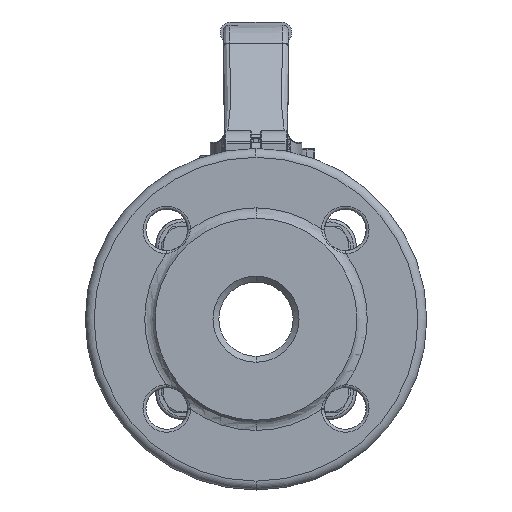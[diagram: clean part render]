
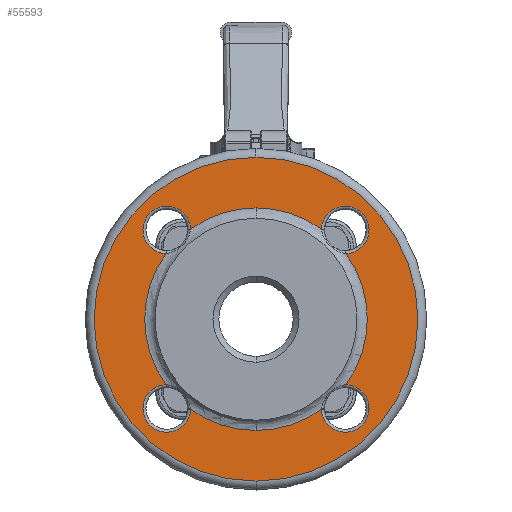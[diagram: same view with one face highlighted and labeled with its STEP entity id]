
A CAD part, left-side view. The second image highlights one B-rep face of the part: STEP entity #55593.
In plain terms, the highlighted planar face has unit normal (-1, 0, 0).
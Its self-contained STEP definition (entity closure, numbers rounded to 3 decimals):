
#57=CARTESIAN_POINT('',(-42.95,0.,0.));
#58=DIRECTION('',(1.,0.,0.));
#59=DIRECTION('',(0.,0.808,-0.589));
#60=AXIS2_PLACEMENT_3D('',#57,#58,#59);
#62=CARTESIAN_POINT('',(-42.95,0.,0.));
#63=DIRECTION('',(1.,0.,0.));
#64=DIRECTION('',(0.,0.,-1.));
#65=AXIS2_PLACEMENT_3D('',#62,#63,#64);
#67=CARTESIAN_POINT('',(-42.95,0.,0.));
#68=DIRECTION('',(-1.,0.,0.));
#69=DIRECTION('',(0.,0.,-1.));
#70=AXIS2_PLACEMENT_3D('',#67,#68,#69);
#72=CARTESIAN_POINT('',(-42.95,0.,0.));
#73=DIRECTION('',(-1.,0.,0.));
#74=DIRECTION('',(0.,-0.808,-0.589));
#75=AXIS2_PLACEMENT_3D('',#72,#73,#74);
#77=CARTESIAN_POINT('',(-42.95,0.,0.));
#78=DIRECTION('',(-1.,0.,0.));
#79=DIRECTION('',(0.,-0.589,0.808));
#80=AXIS2_PLACEMENT_3D('',#77,#78,#79);
#82=CARTESIAN_POINT('',(-42.95,0.,0.));
#83=DIRECTION('',(1.,0.,0.));
#84=DIRECTION('',(0.,0.589,0.808));
#85=AXIS2_PLACEMENT_3D('',#82,#83,#84);
#92=CARTESIAN_POINT('',(-42.95,0.,0.));
#93=DIRECTION('',(1.,0.,0.));
#94=DIRECTION('',(0.,0.,-1.));
#95=AXIS2_PLACEMENT_3D('',#92,#93,#94);
#115=CARTESIAN_POINT('',(-42.95,0.,0.));
#116=DIRECTION('',(1.,0.,0.));
#117=DIRECTION('',(0.,0.,1.));
#118=AXIS2_PLACEMENT_3D('',#115,#116,#117);
#45469=CARTESIAN_POINT('',(-42.95,30.052,30.052));
#45470=DIRECTION('',(1.,0.,0.));
#45471=DIRECTION('',(0.,0.029,-1.));
#45472=AXIS2_PLACEMENT_3D('',#45469,#45470,#45471);
#45489=CARTESIAN_POINT('',(-42.95,22.055,
30.284));
#45542=CARTESIAN_POINT('',(-42.95,30.284,
22.055));
#45624=CARTESIAN_POINT('',(-42.95,-30.052,30.052));
#45625=DIRECTION('',(1.,0.,0.));
#45626=DIRECTION('',(0.,1.,0.029));
#45627=AXIS2_PLACEMENT_3D('',#45624,#45625,#45626);
#45644=CARTESIAN_POINT('',(-42.95,-30.284,
22.055));
#45727=CARTESIAN_POINT('',(-42.95,-22.055,
30.284));
#45813=CARTESIAN_POINT('',(-42.95,-30.284,
-22.055));
#45872=CARTESIAN_POINT('',(-42.95,-30.052,-30.052));
#45873=DIRECTION('',(1.,0.,0.));
#45874=DIRECTION('',(0.,-0.029,1.));
#45875=AXIS2_PLACEMENT_3D('',#45872,#45873,#45874);
#45881=CARTESIAN_POINT('',(-42.95,-22.055,
-30.284));
#45939=CARTESIAN_POINT('',(-42.95,22.055,
-30.284));
#45953=CARTESIAN_POINT('',(-42.95,30.052,-30.052));
#45954=DIRECTION('',(1.,0.,0.));
#45955=DIRECTION('',(0.,-1.,-0.029));
#45956=AXIS2_PLACEMENT_3D('',#45953,#45954,#45955);
#45973=CARTESIAN_POINT('',(-42.95,30.284,
-22.055));
#46071=CARTESIAN_POINT('',(-42.95,0.,-54.5));
#46072=CARTESIAN_POINT('',(-42.95,0.,54.5));
#46073=VERTEX_POINT('',#46071);
#46074=VERTEX_POINT('',#46072);
#47507=VERTEX_POINT('',#45489);
#47510=VERTEX_POINT('',#45542);
#47524=VERTEX_POINT('',#45644);
#47527=VERTEX_POINT('',#45727);
#47537=VERTEX_POINT('',#45881);
#47541=VERTEX_POINT('',#45813);
#47557=VERTEX_POINT('',#45973);
#47560=VERTEX_POINT('',#45939);
#47570=CARTESIAN_POINT('',(-42.95,0.,37.464));
#47571=VERTEX_POINT('',#47570);
#47572=CARTESIAN_POINT('',(-42.95,0.,-37.464));
#47573=VERTEX_POINT('',#47572);
#55566=CARTESIAN_POINT('',(-42.95,0.,0.));
#55567=DIRECTION('',(-1.,0.,0.));
#55568=DIRECTION('',(0.,0.,1.));
#55569=AXIS2_PLACEMENT_3D('',#55566,#55567,#55568);
#55570=PLANE('',#55569);
#55572=ORIENTED_EDGE('',*,*,#55571,.T.);
#55574=ORIENTED_EDGE('',*,*,#55573,.T.);
#55575=EDGE_LOOP('',(#55572,#55574));
#55576=FACE_OUTER_BOUND('',#55575,.F.);
#55578=ORIENTED_EDGE('',*,*,#55577,.F.);
#55579=ORIENTED_EDGE('',*,*,#55554,.F.);
#55581=ORIENTED_EDGE('',*,*,#55580,.F.);
#55582=ORIENTED_EDGE('',*,*,#55548,.F.);
#55583=ORIENTED_EDGE('',*,*,#55534,.T.);
#55585=ORIENTED_EDGE('',*,*,#55584,.F.);
#55586=ORIENTED_EDGE('',*,*,#55528,.T.);
#55588=ORIENTED_EDGE('',*,*,#55587,.F.);
#55589=ORIENTED_EDGE('',*,*,#55522,.T.);
#55590=ORIENTED_EDGE('',*,*,#55560,.F.);
#55591=EDGE_LOOP('',(#55578,#55579,#55581,#55582,#55583,#55585,#55586,#55588,
#55589,#55590));
#55592=FACE_BOUND('',#55591,.F.);
#55593=ADVANCED_FACE('',(#55576,#55592),#55570,.T.);
#61=CIRCLE('',#60,37.464);
#66=CIRCLE('',#65,37.464);
#71=CIRCLE('',#70,37.464);
#76=CIRCLE('',#75,37.464);
#81=CIRCLE('',#80,37.464);
#86=CIRCLE('',#85,37.464);
#96=CIRCLE('',#95,54.5);
#119=CIRCLE('',#118,54.5);
#45473=CIRCLE('',#45472,8.);
#45628=CIRCLE('',#45627,8.);
#45876=CIRCLE('',#45875,8.);
#45957=CIRCLE('',#45956,8.);
#55522=EDGE_CURVE('',#47527,#47571,#81,.T.);
#55528=EDGE_CURVE('',#47541,#47524,#76,.T.);
#55534=EDGE_CURVE('',#47573,#47537,#71,.T.);
#55548=EDGE_CURVE('',#47573,#47560,#66,.T.);
#55554=EDGE_CURVE('',#47557,#47510,#61,.T.);
#55560=EDGE_CURVE('',#47507,#47571,#86,.T.);
#55571=EDGE_CURVE('',#46073,#46074,#96,.T.);
#55573=EDGE_CURVE('',#46074,#46073,#119,.T.);
#55577=EDGE_CURVE('',#47510,#47507,#45473,.T.);
#55580=EDGE_CURVE('',#47560,#47557,#45957,.T.);
#55584=EDGE_CURVE('',#47541,#47537,#45876,.T.);
#55587=EDGE_CURVE('',#47527,#47524,#45628,.T.);
